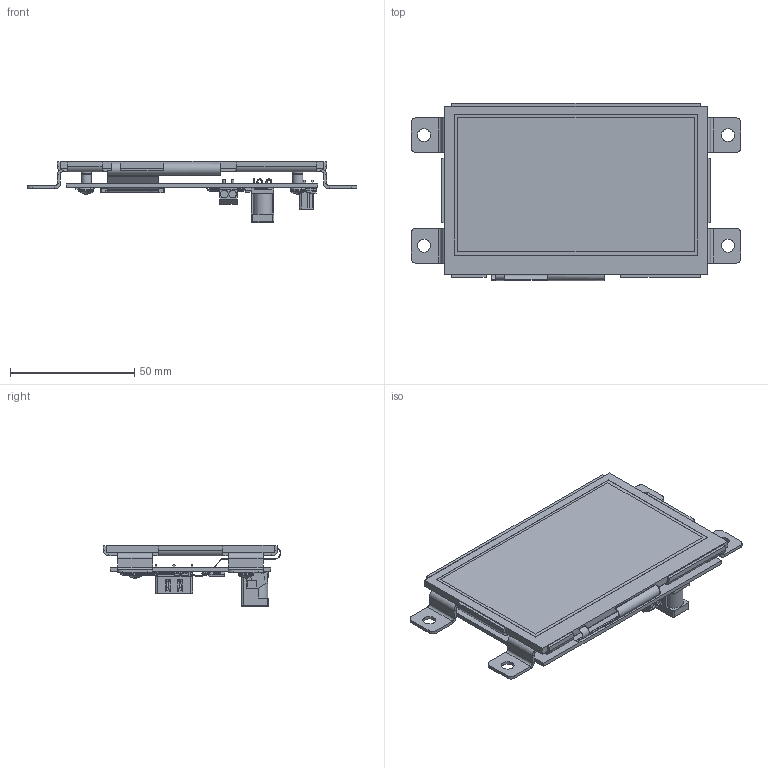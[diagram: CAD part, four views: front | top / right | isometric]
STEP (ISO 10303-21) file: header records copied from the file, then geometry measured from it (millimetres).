
FILE_DESCRIPTION (( 'STEP AP214' ), '1' );
FILE_NAME ('NHD-4.3-HDMI-HR-RSXP.STEP', '2019-11-27T14:34:05', ( '' ), ( '' ), 'SwSTEP 2.0', 'SolidWorks 2018', '' );
FILE_SCHEMA (( 'AUTOMOTIVE_DESIGN' ));
Length unit declared in the file: millimetre
Products named in the file (5): NHD-4.3-Mount; SCREW_95836A203; NHD-4.3-800480CF-ASXP; NHD-4.3-HDMI_PCB; NHD-4.3-HDMI-HR-RSXP
Assembly tree (7 placements, depth 2):
  NHD-4.3-HDMI-HR-RSXP
    NHD-4.3-Mount
    NHD-4.3-HDMI_PCB
    SCREW_95836A203  x4
    NHD-4.3-800480CF-ASXP
Bounding box: 132.58 x 71.19 x 24.69 mm (x, y, z)
Volume: 43587.8 mm3; surface area: 67584.8 mm2
Topology: 34 solids, 34 shells, 5515 faces, 16431 edges, 10787 vertices
Faces by surface type: plane 4011, cylinder 1362, cone 52, bspline 44, torus 34, sphere 12
Entity records: 232109 total; most frequent: CARTESIAN_POINT 36384, ORIENTED_EDGE 31302, DIRECTION 27558, EDGE_CURVE 15651, VECTOR 12274, LINE 12274, VERTEX_POINT 10280, AXIS2_PLACEMENT_3D 7642
